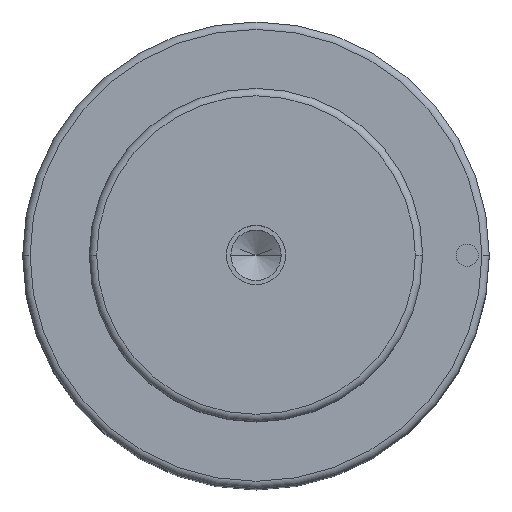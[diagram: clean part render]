
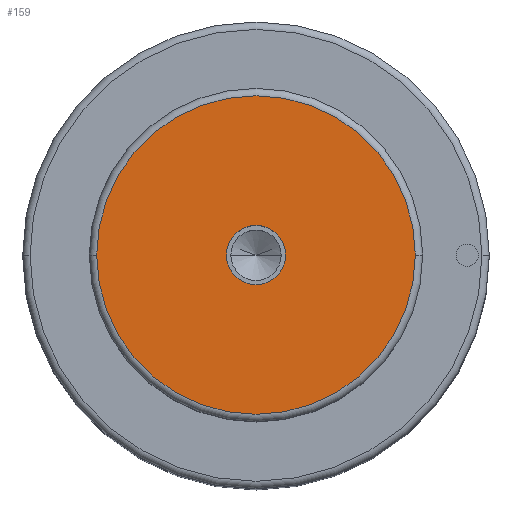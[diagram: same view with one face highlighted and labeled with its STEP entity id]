
A CAD part, top view. The second image highlights one B-rep face of the part: STEP entity #159.
In plain terms, the highlighted planar face has unit normal (0, 0, 1).
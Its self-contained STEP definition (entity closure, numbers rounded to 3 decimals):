
#104=PLANE('',#795);
#113=FACE_BOUND('',#259,.T.);
#114=FACE_BOUND('',#260,.T.);
#159=ADVANCED_FACE('',(#113,#114),#104,.T.);
#259=EDGE_LOOP('',(#395,#396));
#260=EDGE_LOOP('',(#397,#398));
#315=CIRCLE('',#789,4.);
#316=CIRCLE('',#791,4.);
#317=CIRCLE('',#793,21.5);
#318=CIRCLE('',#794,21.5);
#395=ORIENTED_EDGE('',*,*,#629,.F.);
#396=ORIENTED_EDGE('',*,*,#630,.F.);
#397=ORIENTED_EDGE('',*,*,#628,.T.);
#398=ORIENTED_EDGE('',*,*,#626,.T.);
#564=VERTEX_POINT('',#1162);
#565=VERTEX_POINT('',#1164);
#566=VERTEX_POINT('',#1170);
#567=VERTEX_POINT('',#1171);
#626=EDGE_CURVE('',#565,#564,#315,.T.);
#628=EDGE_CURVE('',#564,#565,#316,.T.);
#629=EDGE_CURVE('',#566,#567,#317,.T.);
#630=EDGE_CURVE('',#567,#566,#318,.T.);
#789=AXIS2_PLACEMENT_3D('',#1163,#915,#916);
#791=AXIS2_PLACEMENT_3D('',#1167,#920,#921);
#793=AXIS2_PLACEMENT_3D('',#1169,#924,#925);
#794=AXIS2_PLACEMENT_3D('',#1172,#926,#927);
#795=AXIS2_PLACEMENT_3D('',#1173,#928,#929);
#915=DIRECTION('',(0.,0.,-1.));
#916=DIRECTION('',(0.,1.,0.));
#920=DIRECTION('',(0.,0.,-1.));
#921=DIRECTION('',(0.,-1.,0.));
#924=DIRECTION('',(0.,0.,-1.));
#925=DIRECTION('',(0.,1.,0.));
#926=DIRECTION('',(0.,0.,-1.));
#927=DIRECTION('',(0.,-1.,0.));
#928=DIRECTION('',(0.,0.,1.));
#929=DIRECTION('',(0.,-1.,0.));
#1162=CARTESIAN_POINT('',(-4.,0.,125.));
#1163=CARTESIAN_POINT('',(0.,0.,125.));
#1164=CARTESIAN_POINT('',(4.,0.,125.));
#1167=CARTESIAN_POINT('',(0.,0.,125.));
#1169=CARTESIAN_POINT('',(0.,0.,125.));
#1170=CARTESIAN_POINT('',(21.5,0.,125.));
#1171=CARTESIAN_POINT('',(-21.5,0.,125.));
#1172=CARTESIAN_POINT('',(0.,0.,125.));
#1173=CARTESIAN_POINT('',(0.,0.,125.));
